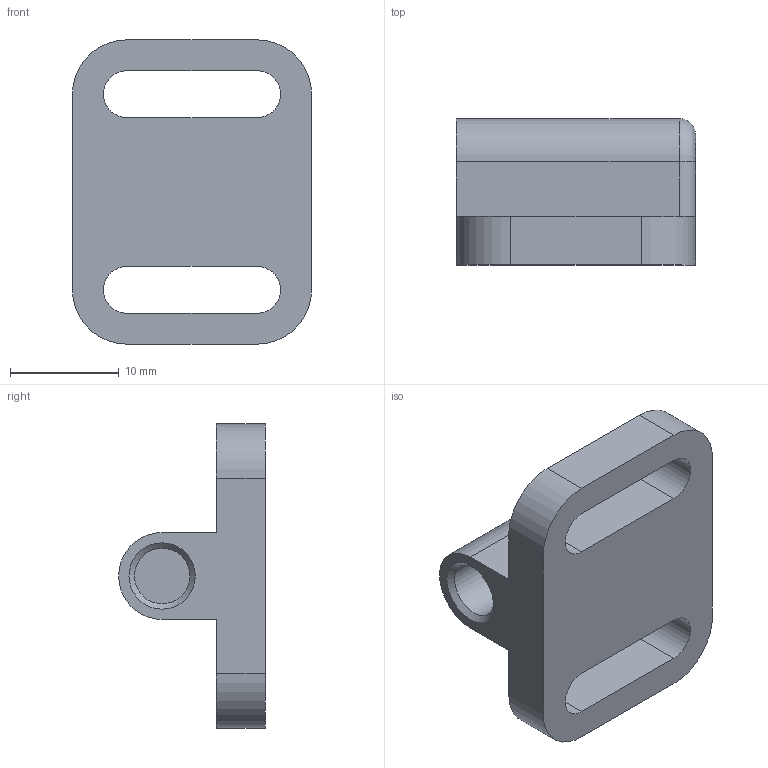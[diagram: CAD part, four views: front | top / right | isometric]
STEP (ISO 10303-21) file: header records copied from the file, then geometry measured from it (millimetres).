
FILE_DESCRIPTION( ( 'STEP AP203' ), '1' );
FILE_NAME( 'C:/Temp/Ganter_Step_05_03_2020/data/3_1/gn_417_1/Locator GN 417.1-5-ST-SW.stp', '2020-03-12T09:12:09', ( 'License CC BY-ND 4.0' ), ( 'CADENAS' ), ' ', 'PARTsolutions', ' ' );
FILE_SCHEMA( ( 'CONFIG_CONTROL_DESIGN' ) );
Length unit declared in the file: millimetre
Products named in the file (1): _Locator GN 417.1-5-ST-SW
Bounding box: 22 x 13.5 x 28 mm (x, y, z)
Volume: 3092.2 mm3; surface area: 2426.3 mm2
Topology: 1 solids, 1 shells, 28 faces, 72 edges, 47 vertices
Faces by surface type: plane 14, cylinder 12, cone 1, torus 1
Full cylindrical faces by diameter (mm): 5.1 x1
Entity records: 900 total; most frequent: DIRECTION 154, CARTESIAN_POINT 146, ORIENTED_EDGE 140, EDGE_CURVE 70, AXIS2_PLACEMENT_3D 55, VERTEX_POINT 47, LINE 44, VECTOR 44
